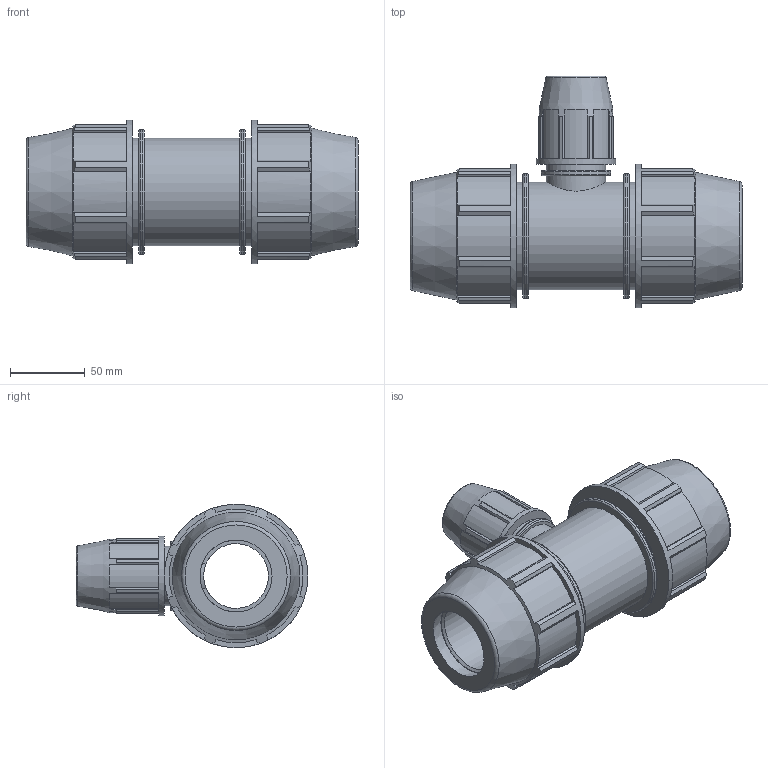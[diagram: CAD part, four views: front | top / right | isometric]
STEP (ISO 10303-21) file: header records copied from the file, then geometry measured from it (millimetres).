
FILE_DESCRIPTION(/* description */ ('PLASSON REDUCING TEE 1 1/2'''' - 3/4'''' - 1 1/2'''''),/* implementation_level */ '2;1');
FILE_NAME(/* name */ 'C:\Dropbox\KIMPROJECTS-Inventor 2019\99-16-3568-Processing Inch\ASTM Compression 2021\0734M0\0734M0015007.ipt.stp',/* time_stamp */ '2021-08-26T12:33:57+03:00',/* author */ ('Кирилл'),/* organization */ (''),/* preprocessor_version */ 'ST-DEVELOPER v17.2',/* originating_system */ 'Autodesk Inventor 2019',/* authorisation */ '');
FILE_SCHEMA (('AUTOMOTIVE_DESIGN { 1 0 10303 214 3 1 1 }'));
Length unit declared in the file: inch
Products named in the file (1): 0734M0015007
Bounding box: 222 x 154.94 x 96.01 mm (x, y, z)
Volume: 843379.4 mm3; surface area: 132007.8 mm2
Topology: 1 solids, 1 shells, 208 faces, 617 edges, 424 vertices
Faces by surface type: plane 138, cylinder 42, cone 19, torus 9
Full cylindrical faces by diameter (mm): 23.94 x1, 26.6 x1, 39.814 x2, 43.29 x1, 46.185 x1, 48.1 x2, 53.086 x1, 72.009 x3, 83.53 x2, 96.012 x2
Entity records: 7447 total; most frequent: CARTESIAN_POINT 1549, ORIENTED_EDGE 1234, DIRECTION 1182, EDGE_CURVE 617, AXIS2_PLACEMENT_3D 431, VERTEX_POINT 424, LINE 320, VECTOR 320
